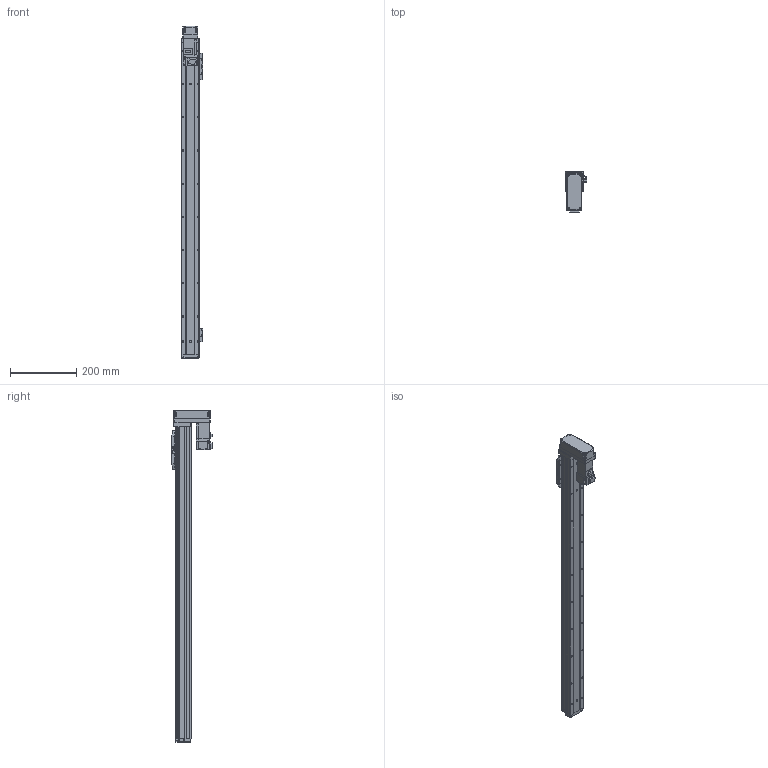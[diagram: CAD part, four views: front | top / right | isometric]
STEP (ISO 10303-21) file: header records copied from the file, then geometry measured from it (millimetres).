
FILE_DESCRIPTION (( 'STEP AP214' ), '1' );
FILE_NAME ('N_GRH5-800-BM-M10.step', '2025-03-14T10:51:17', ( '' ), ( '' ), 'SwSTEP 2.0', 'SolidWorks 2016', '' );
FILE_SCHEMA (( 'AUTOMOTIVE_DESIGN' ));
Length unit declared in the file: millimetre
Products named in the file (5): N_GRH5-GY-004^N_GRH5-800-BM-M10; N_GRH5-800-BM-M10; N_GRH5-BL-008^N_GRH5-800-BM-M10; HF-KP13_100W_Motor^N_GRH5-800-BM-M10; N_GRH5-GY-011^N_GRH5-800-BM-M10
Assembly tree (4 placements, depth 2):
  N_GRH5-800-BM-M10
    N_GRH5-GY-011^N_GRH5-800-BM-M10
    N_GRH5-GY-004^N_GRH5-800-BM-M10
    HF-KP13_100W_Motor^N_GRH5-800-BM-M10
    N_GRH5-BL-008^N_GRH5-800-BM-M10
Bounding box: 64.05 x 123.7 x 1000 mm (x, y, z)
Volume: 1781900.2 mm3; surface area: 460417 mm2
Topology: 4 solids, 5 shells, 984 faces, 2504 edges, 1589 vertices
Faces by surface type: plane 557, cylinder 352, cone 50, bspline 15, sphere 10
Entity records: 37347 total; most frequent: CARTESIAN_POINT 5843, DIRECTION 5105, ORIENTED_EDGE 4944, EDGE_CURVE 2472, AXIS2_PLACEMENT_3D 1715, VECTOR 1675, LINE 1675, VERTEX_POINT 1587
